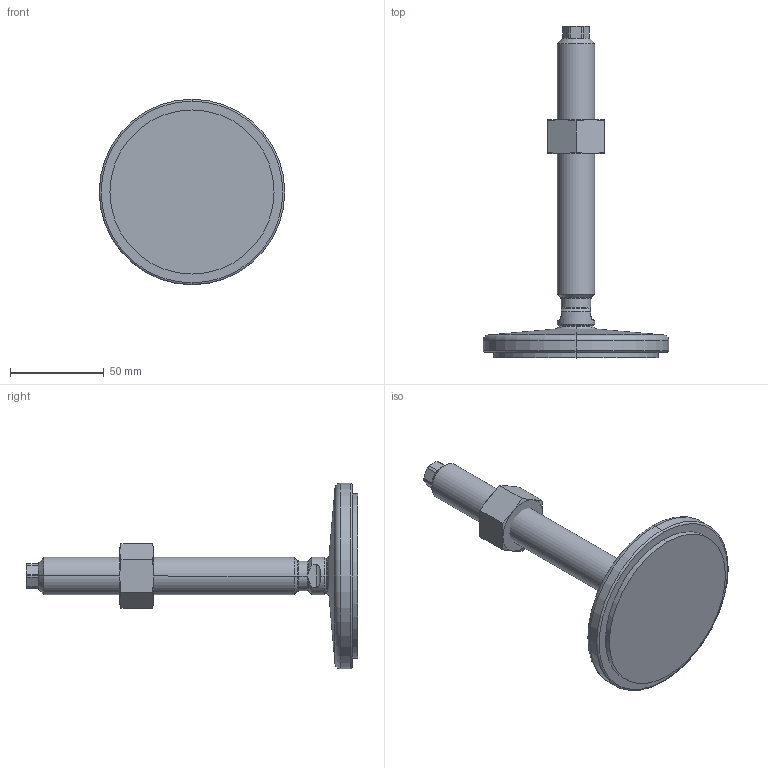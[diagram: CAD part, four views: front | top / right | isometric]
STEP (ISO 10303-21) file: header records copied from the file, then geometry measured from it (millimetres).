
FILE_DESCRIPTION (( 'STEP AP214' ), '1' );
FILE_NAME ('21-100-M20-150-D1-VK.step', '2020-10-02T17:37:26', ( '' ), ( '' ), 'SwSTEP 2.0', 'SolidWorks 2019', '' );
FILE_SCHEMA (( 'AUTOMOTIVE_DESIGN' ));
Length unit declared in the file: millimetre
Products named in the file (4): 21-100-M20-150-D1-VK; WB21_Spindel_V^WB21_V_M20-150; WB21_Fußteller 21^WB21_V_D1-100-R12-B9 (M20); WB4032^WB21_V_M20
Assembly tree (3 placements, depth 2):
  21-100-M20-150-D1-VK
    WB21_Fußteller 21^WB21_V_D1-100-R12-B9 (M20)
    WB21_Spindel_V^WB21_V_M20-150
    WB4032^WB21_V_M20
Bounding box: 99 x 177.02 x 99 mm (x, y, z)
Volume: 155784.1 mm3; surface area: 33273 mm2
Topology: 3 solids, 3 shells, 98 faces, 219 edges, 129 vertices
Faces by surface type: cone 29, plane 28, cylinder 27, torus 10, sphere 4
Entity records: 3117 total; most frequent: CARTESIAN_POINT 724, DIRECTION 476, ORIENTED_EDGE 438, EDGE_CURVE 219, AXIS2_PLACEMENT_3D 205, VERTEX_POINT 129, EDGE_LOOP 102, CIRCLE 101
